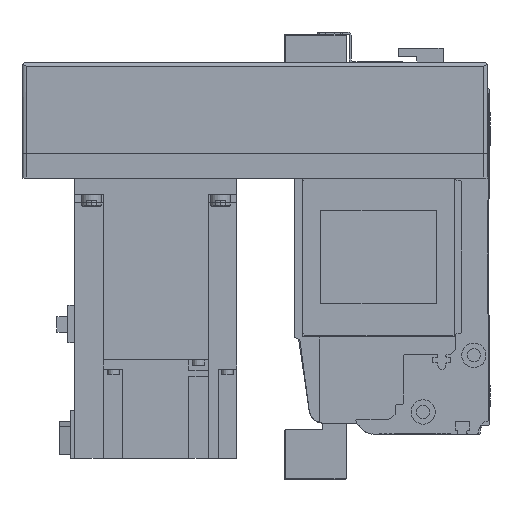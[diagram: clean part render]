
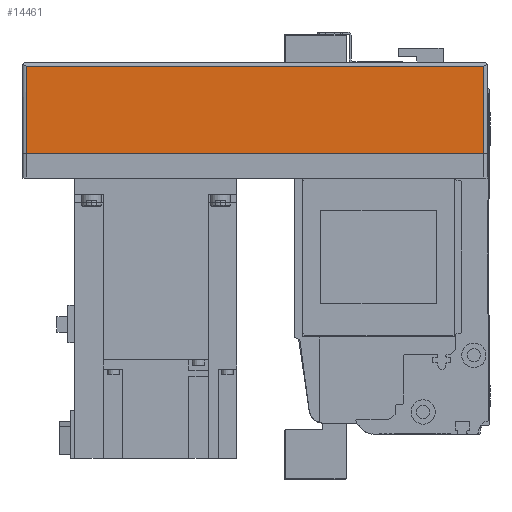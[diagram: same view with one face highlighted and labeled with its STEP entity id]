
A CAD part, left-side view. The second image highlights one B-rep face of the part: STEP entity #14461.
In plain terms, the highlighted planar face has unit normal (-1, 0, 0) as drawn and (0, 1, 0) by its records, which use the part's own axes.
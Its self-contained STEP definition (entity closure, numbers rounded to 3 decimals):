
#2602=ORIENTED_EDGE('',*,*,#5978,.F.);
#2603=ORIENTED_EDGE('',*,*,#5918,.T.);
#2604=ORIENTED_EDGE('',*,*,#5979,.F.);
#2605=ORIENTED_EDGE('',*,*,#5913,.F.);
#5913=EDGE_CURVE('',#7750,#7751,#9262,.T.);
#5918=EDGE_CURVE('',#7756,#7755,#9264,.T.);
#5978=EDGE_CURVE('',#7756,#7750,#9307,.T.);
#5979=EDGE_CURVE('',#7751,#7755,#9308,.T.);
#7750=VERTEX_POINT('',#22714);
#7751=VERTEX_POINT('',#22716);
#7755=VERTEX_POINT('',#22725);
#7756=VERTEX_POINT('',#22727);
#9262=LINE('',#22715,#10575);
#9264=LINE('',#22726,#10577);
#9307=LINE('',#22849,#10620);
#9308=LINE('',#22850,#10621);
#10575=VECTOR('',#18111,1000.);
#10577=VECTOR('',#18121,1000.);
#10620=VECTOR('',#18242,1000.);
#10621=VECTOR('',#18243,1000.);
#11728=EDGE_LOOP('',(#2602,#2603,#2604,#2605));
#12875=FACE_BOUND('',#11728,.T.);
#13854=PLANE('',#15554);
#14461=ADVANCED_FACE('',(#12875),#13854,.T.);
#15554=AXIS2_PLACEMENT_3D('',#22848,#18240,#18241);
#18111=DIRECTION('',(0.,0.,1.));
#18121=DIRECTION('',(0.,0.,1.));
#18240=DIRECTION('',(0.,1.,0.));
#18241=DIRECTION('',(0.,0.,1.));
#18242=DIRECTION('',(1.,0.,0.));
#18243=DIRECTION('',(-1.,0.,0.));
#22714=CARTESIAN_POINT('',(-2.,54.,-55.));
#22715=CARTESIAN_POINT('',(-2.,54.,-57.));
#22716=CARTESIAN_POINT('',(-2.,54.,-12.));
#22725=CARTESIAN_POINT('',(-228.,54.,-12.));
#22726=CARTESIAN_POINT('',(-228.,54.,-57.));
#22727=CARTESIAN_POINT('',(-228.,54.,-55.));
#22848=CARTESIAN_POINT('',(-2.,54.,-57.));
#22849=CARTESIAN_POINT('',(-230.,54.,-55.));
#22850=CARTESIAN_POINT('',(-2.,54.,-12.));
